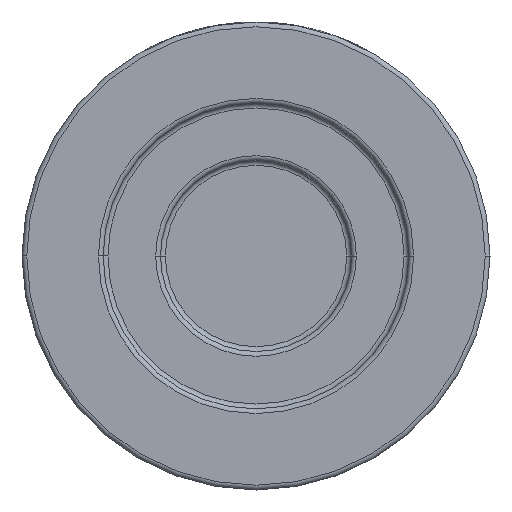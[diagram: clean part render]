
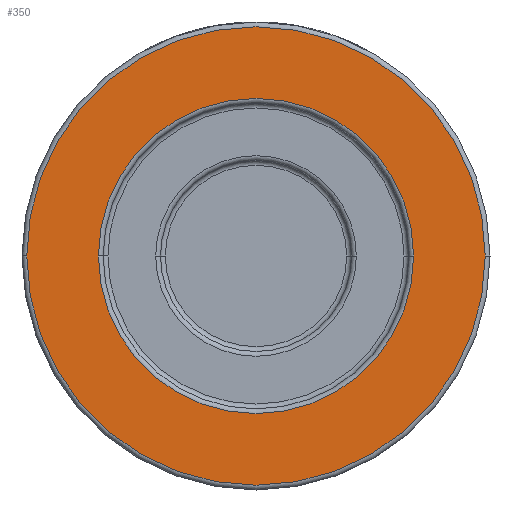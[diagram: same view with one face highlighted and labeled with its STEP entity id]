
A CAD part, front view. The second image highlights one B-rep face of the part: STEP entity #350.
In plain terms, the highlighted planar face has unit normal (0, -1, 0).
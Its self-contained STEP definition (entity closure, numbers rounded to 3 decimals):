
#12 = ORIENTED_EDGE ( 'NONE', *, *, #2344, .T. ) ;
#93 = CARTESIAN_POINT ( 'NONE',  ( -33., -41., 0. ) ) ;
#272 = AXIS2_PLACEMENT_3D ( 'NONE', #2220, #1482, #4455 ) ;
#345 = FACE_OUTER_BOUND ( 'NONE', #3815, .T. ) ;
#350 = ADVANCED_FACE ( 'NONE', ( #3306, #345 ), #2922, .T. ) ;
#456 = AXIS2_PLACEMENT_3D ( 'NONE', #3960, #3867, #2126 ) ;
#467 = AXIS2_PLACEMENT_3D ( 'NONE', #711, #4776, #2941 ) ;
#587 = CIRCLE ( 'NONE', #272, 48. ) ;
#685 = CARTESIAN_POINT ( 'NONE',  ( 49., -41., 0. ) ) ;
#711 = CARTESIAN_POINT ( 'NONE',  ( 0., -41., 0. ) ) ;
#833 = EDGE_CURVE ( 'NONE', #1383, #4160, #587, .T. ) ;
#1101 = DIRECTION ( 'NONE',  ( 0., -1., 0. ) ) ;
#1383 = VERTEX_POINT ( 'NONE', #1476 ) ;
#1476 = CARTESIAN_POINT ( 'NONE',  ( 48., -41., 0. ) ) ;
#1482 = DIRECTION ( 'NONE',  ( 0., -1., 0. ) ) ;
#1647 = AXIS2_PLACEMENT_3D ( 'NONE', #4163, #3129, #3102 ) ;
#1680 = CARTESIAN_POINT ( 'NONE',  ( 33., -41., 0. ) ) ;
#1953 = AXIS2_PLACEMENT_3D ( 'NONE', #685, #1101, #2505 ) ;
#2030 = EDGE_CURVE ( 'NONE', #4160, #1383, #4049, .T. ) ;
#2126 = DIRECTION ( 'NONE',  ( 1., 0., 0. ) ) ;
#2220 = CARTESIAN_POINT ( 'NONE',  ( 0., -41., 0. ) ) ;
#2237 = VERTEX_POINT ( 'NONE', #1680 ) ;
#2344 = EDGE_CURVE ( 'NONE', #2237, #2575, #3205, .T. ) ;
#2505 = DIRECTION ( 'NONE',  ( 1., 0., 0. ) ) ;
#2575 = VERTEX_POINT ( 'NONE', #93 ) ;
#2730 = EDGE_CURVE ( 'NONE', #2575, #2237, #3428, .T. ) ;
#2757 = CARTESIAN_POINT ( 'NONE',  ( -48., -41., 0. ) ) ;
#2922 = PLANE ( 'NONE',  #1953 ) ;
#2941 = DIRECTION ( 'NONE',  ( 1., 0., 0. ) ) ;
#3102 = DIRECTION ( 'NONE',  ( 1., 0., 0. ) ) ;
#3129 = DIRECTION ( 'NONE',  ( 0., 1., 0. ) ) ;
#3135 = EDGE_LOOP ( 'NONE', ( #12, #3180 ) ) ;
#3180 = ORIENTED_EDGE ( 'NONE', *, *, #2730, .T. ) ;
#3205 = CIRCLE ( 'NONE', #1647, 33. ) ;
#3306 = FACE_BOUND ( 'NONE', #3135, .T. ) ;
#3428 = CIRCLE ( 'NONE', #456, 33. ) ;
#3815 = EDGE_LOOP ( 'NONE', ( #4462, #4318 ) ) ;
#3867 = DIRECTION ( 'NONE',  ( 0., 1., 0. ) ) ;
#3960 = CARTESIAN_POINT ( 'NONE',  ( 0., -41., 0. ) ) ;
#4049 = CIRCLE ( 'NONE', #467, 48. ) ;
#4160 = VERTEX_POINT ( 'NONE', #2757 ) ;
#4163 = CARTESIAN_POINT ( 'NONE',  ( 0., -41., 0. ) ) ;
#4318 = ORIENTED_EDGE ( 'NONE', *, *, #2030, .T. ) ;
#4455 = DIRECTION ( 'NONE',  ( 1., 0., 0. ) ) ;
#4462 = ORIENTED_EDGE ( 'NONE', *, *, #833, .T. ) ;
#4776 = DIRECTION ( 'NONE',  ( 0., -1., 0. ) ) ;
